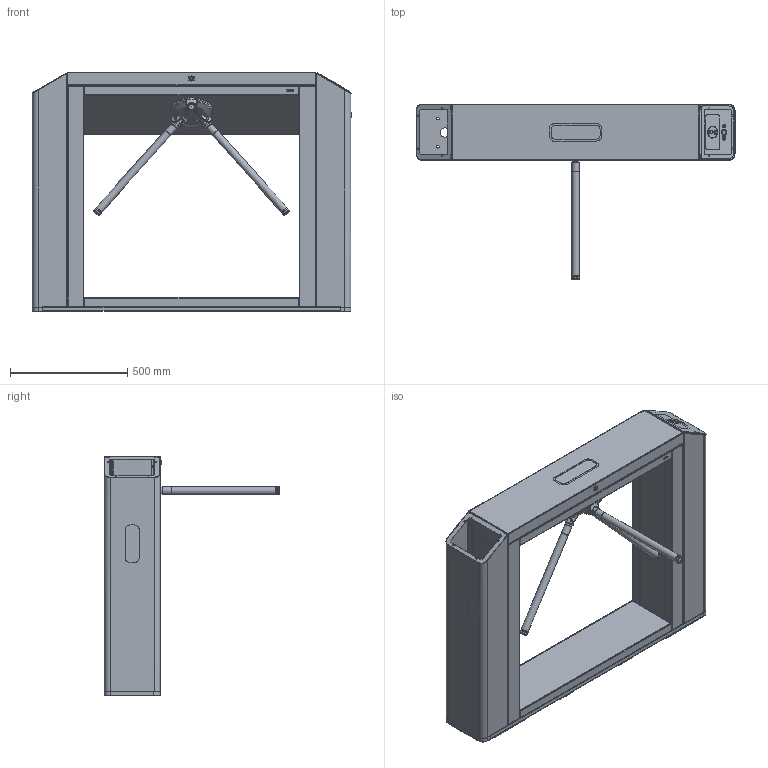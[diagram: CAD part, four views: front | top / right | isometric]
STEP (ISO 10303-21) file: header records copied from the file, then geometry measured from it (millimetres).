
FILE_DESCRIPTION(/* description */ ('Unknown'),/* implementation_level */ '2;1');
FILE_NAME(/* name */ 'TTD10AC',/* time_stamp */ '2021-11-25T14:51:55+03:00',/* author */ ('Unknown'),/* organization */ ('Unknown'),/* preprocessor_version */ 'ST-DEVELOPER v18.1',/* originating_system */ 'Solid Edge',/* authorisation */ 'Unknown');
FILE_SCHEMA (('CONFIG_CONTROL_DESIGN'));
Products named in the file (1): TTD10AC
Bounding box: 1367.18 x 751.05 x 1024.5 mm (x, y, z)
Volume: 8335825 mm3; surface area: 9681796 mm2
Topology: 70 solids, 70 shells, 3309 faces, 8593 edges, 5382 vertices
Faces by surface type: plane 1409, cylinder 1059, bspline 447, cone 166, torus 154, sphere 74
Full cylindrical faces by diameter (mm): 2.5 x6, 3.2 x74, 3.242 x27, 3.3 x96, 3.5 x6, 4.5 x4, 4.917 x1, 4.967 x1, 5 x19, 5.7 x2, 6 x8, 6.1 x1, 6.466 x3, 7 x16, 7.4 x2, 8 x37, 9 x3, 9.5 x1, 10 x21, 12 x4, 13 x7, 14.5 x3, 15 x4, 15.294 x1, 20 x1, 21.2 x2, 23.4 x3, 27 x6, 28 x3, 28.5 x6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
Entity records: 120551 total; most frequent: CARTESIAN_POINT 36321, ORIENTED_EDGE 15424, DIRECTION 14358, EDGE_CURVE 7712, AXIS2_PLACEMENT_3D 5293, VERTEX_POINT 5110, FACE_BOUND 4538, EDGE_LOOP 4520
